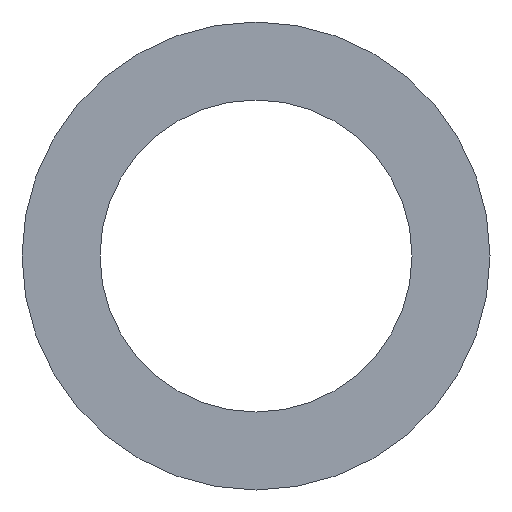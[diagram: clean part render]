
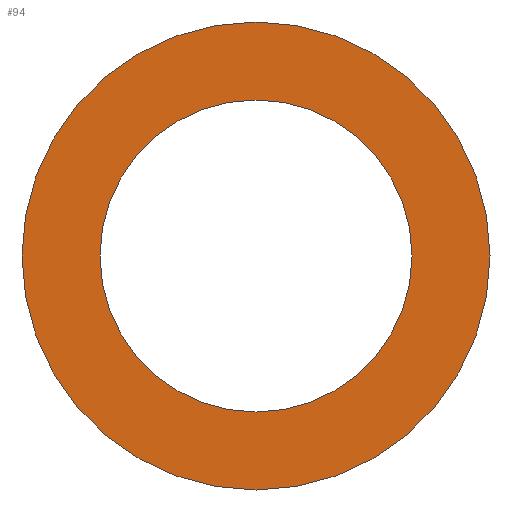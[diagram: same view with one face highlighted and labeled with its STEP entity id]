
A CAD part, front view. The second image highlights one B-rep face of the part: STEP entity #94.
In plain terms, the highlighted planar face has unit normal (0, -1, 0).
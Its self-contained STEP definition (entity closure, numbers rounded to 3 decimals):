
#2 = CARTESIAN_POINT ( 'NONE',  ( 0., 0., 0. ) ) ;
#3 = EDGE_CURVE ( 'NONE', #63, #63, #73, .T. ) ;
#6 = CARTESIAN_POINT ( 'NONE',  ( 0., 0., 5. ) ) ;
#10 = CIRCLE ( 'NONE', #35, 7.5 ) ;
#14 = FACE_BOUND ( 'NONE', #66, .T. ) ;
#17 = EDGE_CURVE ( 'NONE', #59, #59, #10, .T. ) ;
#31 = AXIS2_PLACEMENT_3D ( 'NONE', #2, #62, #38 ) ;
#35 = AXIS2_PLACEMENT_3D ( 'NONE', #106, #79, #107 ) ;
#38 = DIRECTION ( 'NONE',  ( 0., 0., 1. ) ) ;
#45 = FACE_OUTER_BOUND ( 'NONE', #56, .T. ) ;
#48 = PLANE ( 'NONE',  #31 ) ;
#49 = DIRECTION ( 'NONE',  ( 0., 1., 0. ) ) ;
#55 = ORIENTED_EDGE ( 'NONE', *, *, #3, .T. ) ;
#56 = EDGE_LOOP ( 'NONE', ( #85 ) ) ;
#58 = AXIS2_PLACEMENT_3D ( 'NONE', #95, #49, #99 ) ;
#59 = VERTEX_POINT ( 'NONE', #69 ) ;
#62 = DIRECTION ( 'NONE',  ( 0., 1., 0. ) ) ;
#63 = VERTEX_POINT ( 'NONE', #6 ) ;
#66 = EDGE_LOOP ( 'NONE', ( #55 ) ) ;
#69 = CARTESIAN_POINT ( 'NONE',  ( 0., 0., 7.5 ) ) ;
#73 = CIRCLE ( 'NONE', #58, 5. ) ;
#79 = DIRECTION ( 'NONE',  ( 0., 1., 0. ) ) ;
#85 = ORIENTED_EDGE ( 'NONE', *, *, #17, .F. ) ;
#94 = ADVANCED_FACE ( 'NONE', ( #45, #14 ), #48, .F. ) ;
#95 = CARTESIAN_POINT ( 'NONE',  ( 0., 0., 0. ) ) ;
#99 = DIRECTION ( 'NONE',  ( 0., 0., 1. ) ) ;
#106 = CARTESIAN_POINT ( 'NONE',  ( 0., 0., 0. ) ) ;
#107 = DIRECTION ( 'NONE',  ( 0., 0., 1. ) ) ;
